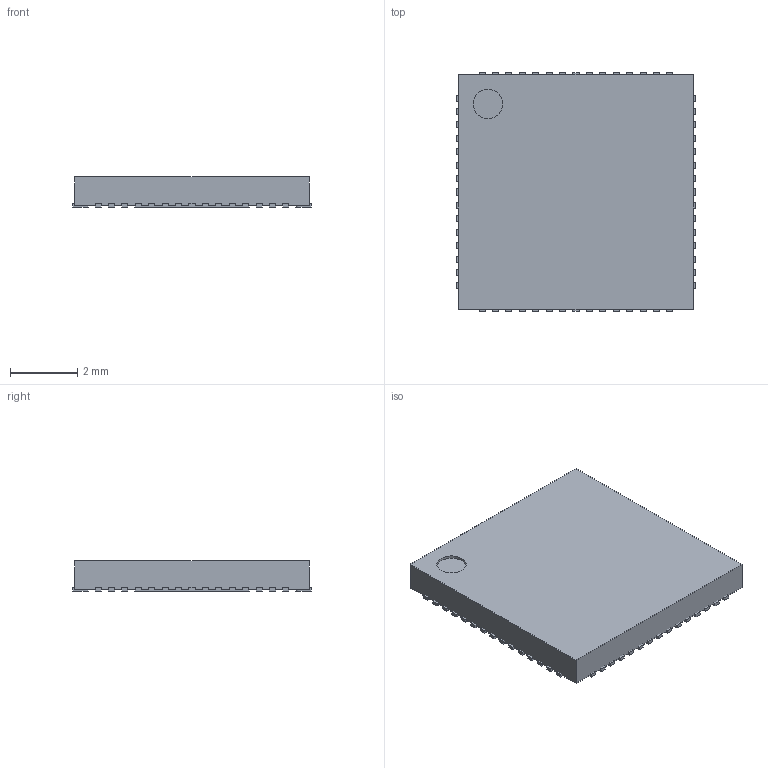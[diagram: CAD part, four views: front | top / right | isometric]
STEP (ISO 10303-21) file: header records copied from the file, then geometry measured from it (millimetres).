
FILE_DESCRIPTION(('FreeCAD Model'),'2;1');
FILE_NAME('/var/www/3D/0T/20725433.1.2.stp','2025-10-08T10:26:45',( 'Author'),(''),'Open CASCADE STEP processor 6.9','FreeCAD','Unknown' );
FILE_SCHEMA(('AUTOMOTIVE_DESIGN { 1 0 10303 214 1 1 1 1 }'));
Length unit declared in the file: millimetre
Products named in the file (5): ASSEMBLY; Body; ThermalPin; PinsArrayLR; PinsArrayTB
Assembly tree (4 placements, depth 2):
  ASSEMBLY
    Body
    ThermalPin
    PinsArrayLR
    PinsArrayTB
Bounding box: 7.1 x 7.1 x 0.9 mm (x, y, z)
Volume: 43.2 mm3; surface area: 162.9 mm2
Topology: 62 solids, 62 shells, 374 faces, 747 edges, 498 vertices
Faces by surface type: plane 313, cylinder 61
Full cylindrical faces by diameter (mm): 0.875 x1
Entity records: 20008 total; most frequent: CARTESIAN_POINT 3478, DIRECTION 3061, LINE 1997, VECTOR 1997, ORIENTED_EDGE 1494, PCURVE 1494, DEFINITIONAL_REPRESENTATION 1494, EDGE_CURVE 747
